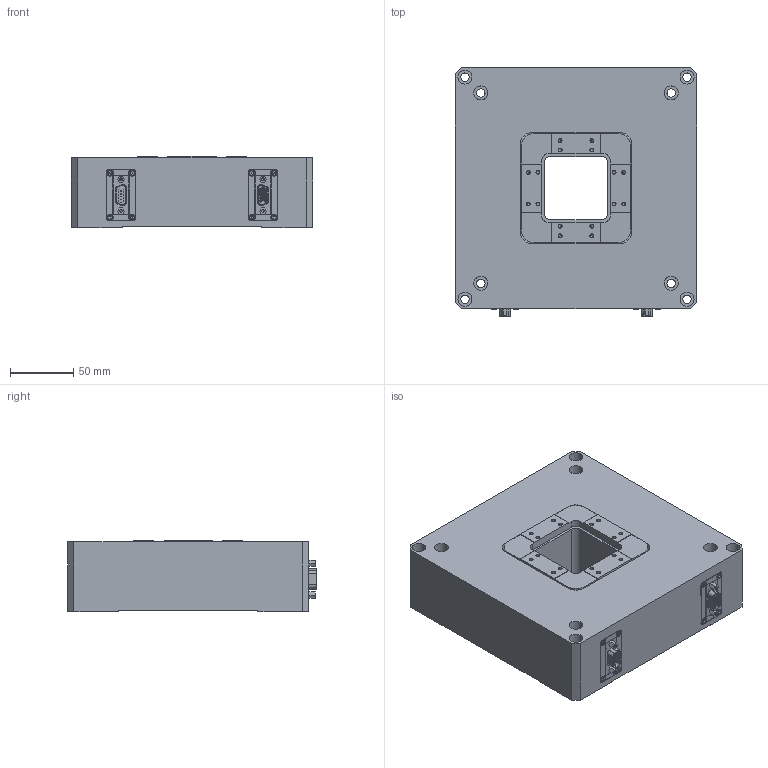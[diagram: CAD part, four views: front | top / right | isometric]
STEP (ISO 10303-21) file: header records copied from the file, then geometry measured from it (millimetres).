
FILE_DESCRIPTION (( 'STEP AP203' ), '1' );
FILE_NAME ('H61.XYZTR0S外形三维-24.08.21.STEP', '2024-08-21T01:12:41', ( 'Windows User' ), ( 'P R C' ), 'SwSTEP 2.0', 'SolidWorks 2016', '' );
FILE_SCHEMA (( 'CONFIG_CONTROL_DESIGN' ));
Length unit declared in the file: millimetre
Products named in the file (1): H61.XYZTR0S外形三维-24.08.21
Bounding box: 190 x 196.06 x 56 mm (x, y, z)
Volume: 1804587.7 mm3; surface area: 147310.5 mm2
Topology: 21 solids, 21 shells, 1003 faces, 2346 edges, 1460 vertices
Faces by surface type: cylinder 402, plane 389, cone 166, bspline 20, torus 16, sphere 10
Entity records: 31459 total; most frequent: CARTESIAN_POINT 8116, DIRECTION 5120, ORIENTED_EDGE 4524, EDGE_CURVE 2262, AXIS2_PLACEMENT_3D 1934, VERTEX_POINT 1450, VECTOR 1252, LINE 1252
